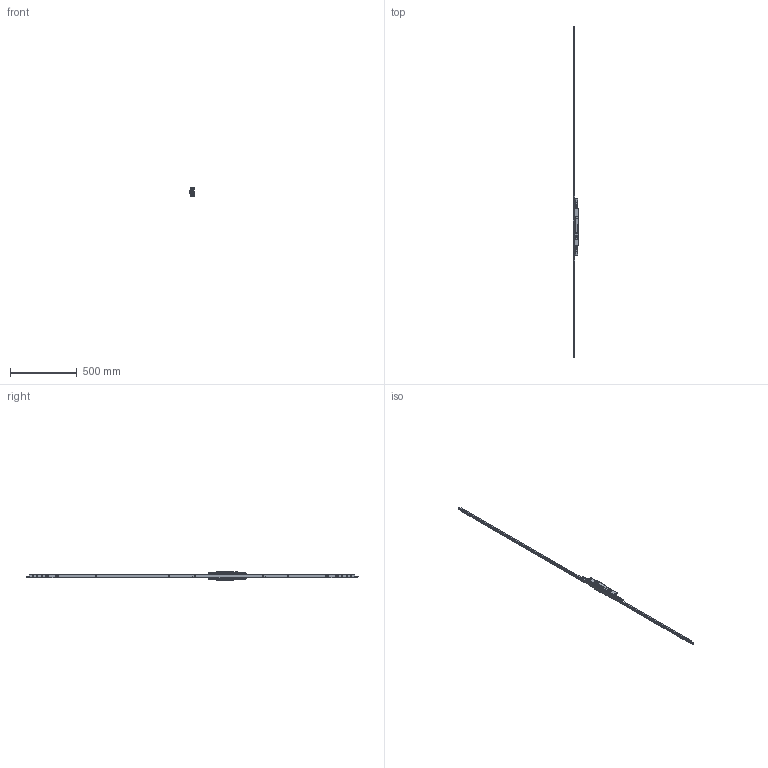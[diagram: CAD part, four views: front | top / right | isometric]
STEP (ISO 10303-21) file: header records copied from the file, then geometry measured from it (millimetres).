
FILE_DESCRIPTION (( 'STEP AP214' ), '1' );
FILE_NAME ('TPL-W-APC-633 28Oct2024.STEP', '2024-10-28T05:01:26', ( '' ), ( '' ), 'SwSTEP 2.0', 'SolidWorks 2023', '' );
FILE_SCHEMA (( 'AUTOMOTIVE_DESIGN' ));
Length unit declared in the file: millimetre
Products named in the file (24): Copy of COV-115-A Cover A suit TPLGen2 standard range AU with hinge holes^TPL-W-APC-113 18Oct2024_2870mm; Copy of LKC-514 Escutcheon plate keyed external 285mm long zinc - simplified^Copy of TPGen2 handle keyed external zinc - simplified_TPL-W-APC-113 18Oct2024; Copy of COV-115-B Cover B suit TPLGen2 standard range AU with hinge holes^TPL-W-APC-113 18Oct2024_2870mm; Copy of LKC-585 Rotator body zinc^Copy of TPGen2 handle keyed internal zinc - simplified_TPL-W-APC-113 18Oct2024; Copy of Copy of LKC-531 Lock twinpoint transmission rod wood system^TPL-W-APC-113 18Oct2024_Standard Range 2891.7mm; Copy of LKC-512 Escutcheon plate keyed internal 285mm long zinc - simplified^Copy of TPGen2 handle keyed internal zinc - simplified_TPL-W-APC-113 18Oct2024; Copy of Copy of Copy of LKC-531 Lock twinpoint transmission rod wood system^TPL-W-APC-113 18Oct2024_Standard Range 2891.7mm; Copy of LKC-505 Swing handle zinc - simplified^Copy of TPGen2 handle keyed external zinc - simplified_TPL-W-APC-113 18Oct2024; Copy of COV-115-C Cover C suit TPLGen2 standard range AU^TPL-W-APC-113 18Oct2024; Copy of TPLGen2 lock body keyed^Copy of TPLGen2 lock body keyed assembly_TPL-W-APC-113 18Oct2024; Copy of Adapter D - simplfied^TPL-W-APC-113 18Oct2024; Bolt.step; Copy of LKC-584 Pivot body zinc - simplified^Copy of TPGen2 handle keyed internal zinc - simplified_TPL-W-APC-113 18Oct2024; Copy of LKC-585 Rotator body zinc^Copy of TPGen2 handle keyed external zinc - simplified_TPL-W-APC-113 18Oct2024; Copy of TPGen2 handle keyed external zinc - simplified^TPL-W-APC-113 18Oct2024_Vertical; Copy of TPLGen2 lock body keyed assembly^TPL-W-APC-113 18Oct2024_Bolts extended; Copy of TPLGen2 push rod - simplified^Copy of TPLGen2 lock body keyed assembly_TPL-W-APC-113 18Oct2024_Female thread M10; Copy of TPL-036 Lock cylinder double key C4 3-5 PIN 55 (23-32)mm^TPL-W-APC-113 18Oct2024_Left; Copy of LKC-584 Pivot body zinc - simplified^Copy of TPGen2 handle keyed external zinc - simplified_TPL-W-APC-113 18Oct2024; TPL-W-APC-633 28Oct2024; Copy of LKC-586 Spindle square 8mm with M4 hole^Copy of TPGen2 handle keyed internal zinc - simplified_TPL-W-APC-113 18Oct2024_38mm; Copy of LKC-505 Swing handle zinc - simplified^Copy of TPGen2 handle keyed internal zinc - simplified_TPL-W-APC-113 18Oct2024; Copy of TPGen2 handle keyed internal zinc - simplified^TPL-W-APC-113 18Oct2024_Vertical; Copy of Adapter C - simplfied^TPL-W-APC-113 18Oct2024
Assembly tree (25 placements, depth 3):
  TPL-W-APC-633 28Oct2024
    Copy of TPLGen2 lock body keyed assembly^TPL-W-APC-113 18Oct2024_Bolts extended
      Copy of TPLGen2 lock body keyed^Copy of TPLGen2 lock body keyed assembly_TPL-W-APC-113 18Oct2024
      Copy of TPLGen2 push rod - simplified^Copy of TPLGen2 lock body keyed assembly_TPL-W-APC-113 18Oct2024_Female thread M10  x2
    Copy of TPGen2 handle keyed internal zinc - simplified^TPL-W-APC-113 18Oct2024_Vertical
      Copy of LKC-512 Escutcheon plate keyed internal 285mm long zinc - simplified^Copy of TPGen2 handle keyed internal zinc - simplified_TPL-W-APC-113 18Oct2024
      Copy of LKC-505 Swing handle zinc - simplified^Copy of TPGen2 handle keyed internal zinc - simplified_TPL-W-APC-113 18Oct2024
      Copy of LKC-585 Rotator body zinc^Copy of TPGen2 handle keyed internal zinc - simplified_TPL-W-APC-113 18Oct2024
      Copy of LKC-586 Spindle square 8mm with M4 hole^Copy of TPGen2 handle keyed internal zinc - simplified_TPL-W-APC-113 18Oct2024_38mm
      Copy of LKC-584 Pivot body zinc - simplified^Copy of TPGen2 handle keyed internal zinc - simplified_TPL-W-APC-113 18Oct2024
    Copy of TPGen2 handle keyed external zinc - simplified^TPL-W-APC-113 18Oct2024_Vertical
      Copy of LKC-514 Escutcheon plate keyed external 285mm long zinc - simplified^Copy of TPGen2 handle keyed external zinc - simplified_TPL-W-APC-113 18Oct2024
      Copy of LKC-505 Swing handle zinc - simplified^Copy of TPGen2 handle keyed external zinc - simplified_TPL-W-APC-113 18Oct2024
      Copy of LKC-585 Rotator body zinc^Copy of TPGen2 handle keyed external zinc - simplified_TPL-W-APC-113 18Oct2024
      Copy of LKC-584 Pivot body zinc - simplified^Copy of TPGen2 handle keyed external zinc - simplified_TPL-W-APC-113 18Oct2024
    Copy of TPL-036 Lock cylinder double key C4 3-5 PIN 55 (23-32)mm^TPL-W-APC-113 18Oct2024_Left
    Copy of COV-115-C Cover C suit TPLGen2 standard range AU^TPL-W-APC-113 18Oct2024
    Bolt.step  x2
    Copy of Copy of LKC-531 Lock twinpoint transmission rod wood system^TPL-W-APC-113 18Oct2024_Standard Range 2891.7mm
    Copy of Copy of Copy of LKC-531 Lock twinpoint transmission rod wood system^TPL-W-APC-113 18Oct2024_Standard Range 2891.7mm
    Copy of COV-115-A Cover A suit TPLGen2 standard range AU with hinge holes^TPL-W-APC-113 18Oct2024_2870mm
    Copy of COV-115-B Cover B suit TPLGen2 standard range AU with hinge holes^TPL-W-APC-113 18Oct2024_2870mm
    Copy of Adapter C - simplfied^TPL-W-APC-113 18Oct2024
    Copy of Adapter D - simplfied^TPL-W-APC-113 18Oct2024
Bounding box: 43.5 x 2490 x 68.92 mm (x, y, z)
Volume: 631388.9 mm3; surface area: 401430.4 mm2
Topology: 22 solids, 22 shells, 1643 faces, 4157 edges, 2583 vertices
Faces by surface type: plane 518, cylinder 428, bspline 417, cone 162, torus 98, sphere 20
Entity records: 60874 total; most frequent: CARTESIAN_POINT 25029, ORIENTED_EDGE 7956, DIRECTION 6578, EDGE_CURVE 3978, AXIS2_PLACEMENT_3D 2490, VERTEX_POINT 2471, EDGE_LOOP 1735, VECTOR 1598
